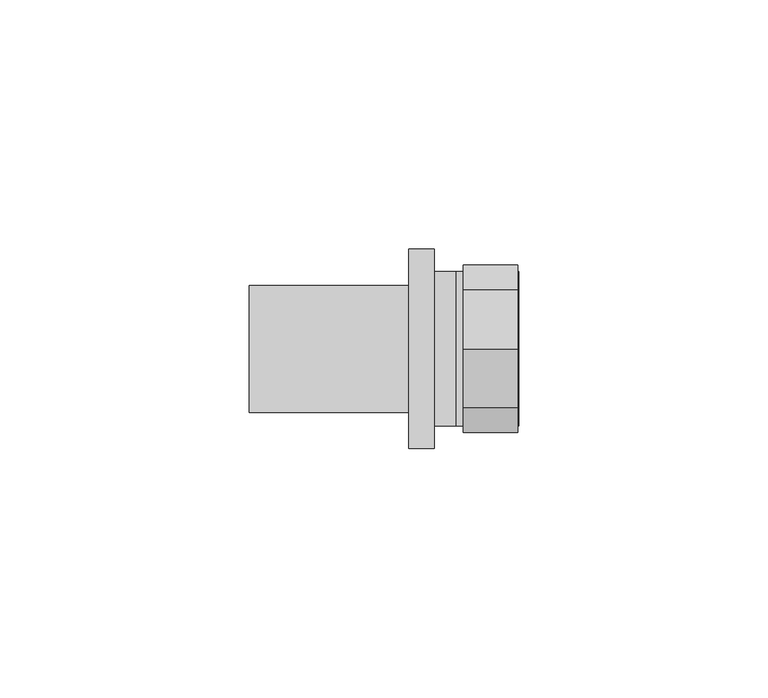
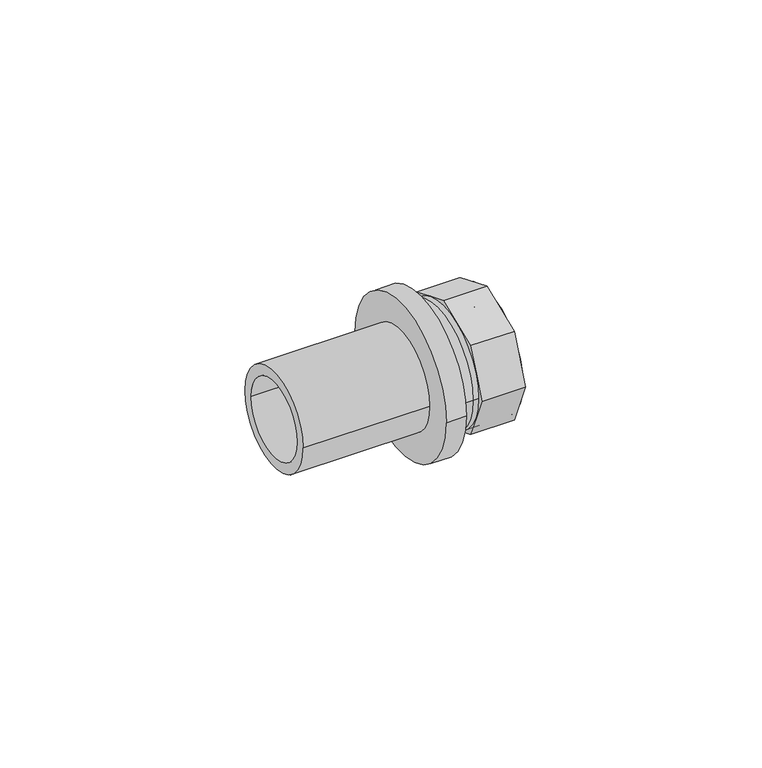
"""IFC4 building model written with IfcOpenShell, lengths in millimetres: pipe fitting geometry, REHAU_RAUTITAN_Adaptor_RX+, with internal thread : REHAU_RAUTITAN_Adaptor_RX+, with internal thread."""

from ifc_helpers import new_model, si_unit, point, frame, origin, origin_2d, place, context, project, spatial, polyline, circle_curve, trimmed, segment, composite_curve, outline, extrude, source, transform, mapped, element, save
from ifc_brep_helpers import plane_surface, cylinder_surface, revolved_surface, advanced_brep


def pipe_fitting_865653ef(model_context):
    return source(origin(), model_context, "Body", "SolidModel", [
        advanced_brep(
        [(5.5, -11.8631864, 11.8631864), (5.5, -16.7770791, 0.0), (5.5, -11.8631864, -11.8631864), (5.5, 0.0, -16.7770791), (5.5, 11.8631864, -11.8631864), (5.5, 16.7770791, 0.0), (5.5, 11.8631864, 11.8631864), (5.5, 0.0, 16.7770791), (5.5, -9.5, 0.0), (5.5, 9.5, 0.0), (-5.5, 13.1078182, 0.0), (-5.5, -13.1078182, 0.0), (-5.5, -9.5, 0.0), (-5.5, 9.5, 0.0), (-5.5, -11.8631864, 11.8631864), (-5.5, -5.9315932, 14.3201328), (-5.5, -14.3201328, 5.9315932), (-5.5, 0.0, 16.7770791), (-5.5, 5.9315932, 14.3201328), (-5.5, 11.8631864, 11.8631864), (-5.5, 14.3201328, 5.9315932), (-5.5, 16.7770791, 0.0), (-5.5, 14.3201328, -5.9315932), (-5.5, 15.5, 0.0), (-5.5, 11.8631864, -11.8631864), (-5.5, 5.9315932, -14.3201328), (-5.5, 0.0, -16.7770791), (-5.5, -5.9315932, -14.3201328), (-5.5, -11.8631864, -11.8631864), (-5.5, -14.3201328, -5.9315932), (-5.5, -16.7770791, 0.0), (-5.5, -15.5, 0.0), (-7.01, 15.5, 0.0), (-7.01, -15.5, 0.0), (-11.27, -15.5, 0.0), (-11.27, 15.5, 0.0), (-7.01, 13.3, 0.0), (-7.01, -13.3, 0.0), (-48.36, 10.0, 0.0), (-48.36, -10.0, 0.0), (-11.27, -10.0, 0.0), (-11.27, 10.0, 0.0), (-16.36, 12.725, 0.0), (-16.36, -12.725, 0.0), (-48.36, -12.725, 0.0), (-48.36, 12.725, 0.0), (-11.27, 20.0, 0.0), (-11.27, -20.0, 0.0), (-16.36, -20.0, 0.0), (-16.36, 20.0, 0.0)],
        [
            (0, 1),
            (1, 2),
            (2, 3),
            (3, 4),
            (4, 5),
            (5, 6),
            (6, 7),
            (7, 0),
            (8, 9, circle_curve(frame((5.5, 0.0, 0.0), z_axis=(-1.0, 0.0, 0.0), x_axis=(0.0, 1.0, 0.0)), 9.5)),
            (9, 8, circle_curve(frame((5.5, 0.0, 0.0), z_axis=(-1.0, 0.0, 0.0), x_axis=(0.0, 1.0, 0.0)), 9.5)),
            (10, 11, circle_curve(frame((-5.5, 0.0, 0.0), z_axis=(-1.0, 0.0, 0.0), x_axis=(0.0, -1.0, 0.0)), 13.1078182)),
            (11, 10, circle_curve(frame((-5.5, 0.0, 0.0), z_axis=(-1.0, 0.0, 0.0), x_axis=(0.0, 1.0, 0.0)), 13.1078182)),
            (12, 13, circle_curve(frame((-5.5, 0.0, 0.0), z_axis=(1.0, 0.0, 0.0), x_axis=(0.0, 1.0, 0.0)), 9.5)),
            (13, 12, circle_curve(frame((-5.5, 0.0, 0.0), z_axis=(1.0, 0.0, 0.0), x_axis=(0.0, 1.0, 0.0)), 9.5)),
            (14, 15),
            (15, 16, circle_curve(frame((-5.5, 0.0, 0.0), z_axis=(1.0, 0.0, 0.0), x_axis=(0.0, 1.0, 0.0)), 15.5)),
            (16, 14),
            (15, 17),
            (17, 18),
            (18, 15, circle_curve(frame((-5.5, 0.0, 0.0), z_axis=(1.0, 0.0, 0.0), x_axis=(0.0, 1.0, 0.0)), 15.5)),
            (18, 19),
            (19, 20),
            (20, 18, circle_curve(frame((-5.5, 0.0, 0.0), z_axis=(1.0, 0.0, 0.0), x_axis=(0.0, 1.0, 0.0)), 15.5)),
            (20, 21),
            (21, 22),
            (22, 23, circle_curve(frame((-5.5, 0.0, 0.0), z_axis=(1.0, 0.0, 0.0), x_axis=(0.0, -1.0, 0.0)), 15.5)),
            (23, 20, circle_curve(frame((-5.5, 0.0, 0.0), z_axis=(1.0, 0.0, 0.0), x_axis=(0.0, 1.0, 0.0)), 15.5)),
            (22, 24),
            (24, 25),
            (25, 22, circle_curve(frame((-5.5, 0.0, 0.0), z_axis=(1.0, 0.0, 0.0), x_axis=(0.0, -1.0, 0.0)), 15.5)),
            (25, 26),
            (26, 27),
            (27, 25, circle_curve(frame((-5.5, 0.0, 0.0), z_axis=(1.0, 0.0, 0.0), x_axis=(0.0, -1.0, 0.0)), 15.5)),
            (27, 28),
            (28, 29),
            (29, 27, circle_curve(frame((-5.5, 0.0, 0.0), z_axis=(1.0, 0.0, 0.0), x_axis=(0.0, -1.0, 0.0)), 15.5)),
            (29, 30),
            (30, 16),
            (16, 31, circle_curve(frame((-5.5, 0.0, 0.0), z_axis=(1.0, 0.0, 0.0), x_axis=(0.0, 1.0, 0.0)), 15.5)),
            (31, 29, circle_curve(frame((-5.5, 0.0, 0.0), z_axis=(1.0, 0.0, 0.0), x_axis=(0.0, -1.0, 0.0)), 15.5)),
            (8, 12),
            (13, 9),
            (0, 14),
            (30, 1),
            (28, 2),
            (26, 3),
            (24, 4),
            (21, 5),
            (19, 6),
            (17, 7),
            (32, 33, circle_curve(frame((-7.01, 0.0, 0.0), z_axis=(-1.0, 0.0, 0.0), x_axis=(0.0, -1.0, 0.0)), 15.5)),
            (33, 34),
            (34, 35, circle_curve(frame((-11.27, 0.0, 0.0), z_axis=(1.0, 0.0, 0.0), x_axis=(0.0, -1.0, 0.0)), 15.5)),
            (35, 32),
            (32, 23),
            (31, 33),
            (36, 37, circle_curve(frame((-7.01, 0.0, 0.0), z_axis=(-1.0, 0.0, 0.0), x_axis=(0.0, -1.0, 0.0)), 13.3)),
            (37, 11),
            (10, 36),
            (38, 39, circle_curve(frame((-48.36, 0.0, 0.0), z_axis=(-1.0, 0.0, 0.0), x_axis=(0.0, -1.0, 0.0)), 10.0)),
            (39, 40),
            (40, 41, circle_curve(frame((-11.27, 0.0, 0.0), z_axis=(1.0, 0.0, 0.0), x_axis=(0.0, -1.0, 0.0)), 10.0)),
            (41, 38),
            (42, 43, circle_curve(frame((-16.36, 0.0, 0.0), z_axis=(-1.0, 0.0, 0.0), x_axis=(0.0, -1.0, 0.0)), 12.725)),
            (43, 44),
            (44, 45, circle_curve(frame((-48.36, 0.0, 0.0), z_axis=(1.0, 0.0, 0.0), x_axis=(0.0, -1.0, 0.0)), 12.725)),
            (45, 42),
            (46, 47, circle_curve(frame((-11.27, 0.0, 0.0), z_axis=(-1.0, 0.0, 0.0), x_axis=(0.0, -1.0, 0.0)), 20.0)),
            (47, 48),
            (48, 49, circle_curve(frame((-16.36, 0.0, 0.0), z_axis=(1.0, 0.0, 0.0), x_axis=(0.0, -1.0, 0.0)), 20.0)),
            (49, 46),
            (46, 47, circle_curve(frame((-11.27, 0.0, 0.0), z_axis=(1.0, 0.0, 0.0), x_axis=(0.0, 1.0, 0.0)), 20.0)),
            (34, 35, circle_curve(frame((-11.27, 0.0, 0.0), z_axis=(-1.0, 0.0, 0.0), x_axis=(0.0, 1.0, 0.0)), 15.5)),
            (33, 32, circle_curve(frame((-7.01, 0.0, 0.0), z_axis=(-1.0, 0.0, 0.0), x_axis=(0.0, 1.0, 0.0)), 15.5)),
            (37, 36, circle_curve(frame((-7.01, 0.0, 0.0), z_axis=(-1.0, 0.0, 0.0), x_axis=(0.0, 1.0, 0.0)), 13.3)),
            (39, 38, circle_curve(frame((-48.36, 0.0, 0.0), z_axis=(-1.0, 0.0, 0.0), x_axis=(0.0, 1.0, 0.0)), 10.0)),
            (41, 40, circle_curve(frame((-11.27, 0.0, 0.0), z_axis=(1.0, 0.0, 0.0), x_axis=(0.0, 1.0, 0.0)), 10.0)),
            (44, 45, circle_curve(frame((-48.36, 0.0, 0.0), z_axis=(-1.0, 0.0, 0.0), x_axis=(0.0, 1.0, 0.0)), 12.725)),
            (43, 42, circle_curve(frame((-16.36, 0.0, 0.0), z_axis=(-1.0, 0.0, 0.0), x_axis=(0.0, 1.0, 0.0)), 12.725)),
            (48, 49, circle_curve(frame((-16.36, 0.0, 0.0), z_axis=(-1.0, 0.0, 0.0), x_axis=(0.0, 1.0, 0.0)), 20.0)),
            (36, 41),
            (40, 37),
        ],
        [
            plane_surface(frame((5.5, 9.5, 0.0), z_axis=(1.0, 0.0, 0.0), x_axis=(0.0, 0.0, -1.0))),
            plane_surface(frame((-5.5, 9.5, 0.0), z_axis=(-1.0, 0.0, 0.0), x_axis=(0.0, 0.0, 1.0))),
            revolved_surface(polyline([(-5.5, 9.5, 0.0), (5.5, 9.5, 0.0)]), (-5.5, 0.0, 0.0), (-1.0, 0.0, 0.0)),
            plane_surface(frame((5.5, -11.8631864, 11.8631864), z_axis=(0.0, -0.9238795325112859, 0.382683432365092), x_axis=(-1.0, 0.0, 0.0))),
            plane_surface(frame((5.5, -16.7770791, 0.0), z_axis=(0.0, -0.9238795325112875, -0.38268343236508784), x_axis=(-1.0, 0.0, 0.0))),
            plane_surface(frame((5.5, -11.8631864, -11.8631864), z_axis=(0.0, -0.38268343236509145, -0.9238795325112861), x_axis=(-1.0, 0.0, 0.0))),
            plane_surface(frame((5.5, 0.0, -16.7770791), z_axis=(0.0, 0.38268343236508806, -0.9238795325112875), x_axis=(-1.0, 0.0, 0.0))),
            plane_surface(frame((5.5, 11.8631864, -11.8631864), z_axis=(0.0, 0.9238795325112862, -0.3826834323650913), x_axis=(-1.0, 0.0, 0.0))),
            plane_surface(frame((5.5, 16.7770791, 0.0), z_axis=(0.0, 0.9238795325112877, 0.38268343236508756), x_axis=(-1.0, 0.0, 0.0))),
            plane_surface(frame((5.5, 11.8631864, 11.8631864), z_axis=(0.0, 0.38268343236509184, 0.923879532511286), x_axis=(-1.0, 0.0, 0.0))),
            plane_surface(frame((5.5, 0.0, 16.7770791), z_axis=(0.0, -0.3826834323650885, 0.9238795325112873), x_axis=(-1.0, 0.0, 0.0))),
            cylinder_surface(frame((0.0, 0.0, 0.0), z_axis=(1.0, 0.0, 0.0), x_axis=(0.0, -1.0, 0.0)), 15.5),
            revolved_surface(polyline([(-5.36, -13.09, 0.0), (-7.01, -13.3, 0.0)]), (0.0, 0.0, 0.0), (1.0, 0.0, 0.0)),
            revolved_surface(polyline([(-11.27, -10.0, 0.0), (-48.36, -10.0, 0.0)]), (0.0, 0.0, 0.0), (1.0, 0.0, 0.0)),
            cylinder_surface(frame((0.0, 0.0, 0.0), z_axis=(1.0, 0.0, 0.0), x_axis=(0.0, -1.0, 0.0)), 12.725),
            cylinder_surface(frame((0.0, 0.0, 0.0), z_axis=(1.0, 0.0, 0.0), x_axis=(0.0, -1.0, 0.0)), 20.0),
            plane_surface(frame((-11.27, 0.0, 0.0), z_axis=(1.0, 0.0, 0.0), x_axis=(0.0, 1.0, 0.0))),
            cylinder_surface(frame((0.0, 0.0, 0.0), z_axis=(1.0, 0.0, 0.0), x_axis=(0.0, 1.0, 0.0)), 15.5),
            revolved_surface(polyline([(-5.36, 13.09, 0.0), (-7.01, 13.3, 0.0)]), (0.0, 0.0, 0.0), (1.0, 0.0, 0.0)),
            revolved_surface(polyline([(-11.27, 10.0, 0.0), (-48.36, 10.0, 0.0)]), (0.0, 0.0, 0.0), (1.0, 0.0, 0.0)),
            plane_surface(frame((-48.36, 0.0, 0.0), z_axis=(-1.0, 0.0, 0.0), x_axis=(0.0, 1.0, 0.0))),
            cylinder_surface(frame((0.0, 0.0, 0.0), z_axis=(1.0, 0.0, 0.0), x_axis=(0.0, 1.0, 0.0)), 12.725),
            plane_surface(frame((-16.36, 0.0, 0.0), z_axis=(-1.0, 0.0, 0.0), x_axis=(0.0, 1.0, 0.0))),
            cylinder_surface(frame((0.0, 0.0, 0.0), z_axis=(1.0, 0.0, 0.0), x_axis=(0.0, 1.0, 0.0)), 20.0),
            revolved_surface(polyline([(-7.01, -13.3, 0.0), (-11.27, -10.0, 0.0)]), (0.0, 0.0, 0.0), (1.0, 0.0, 0.0)),
            revolved_surface(polyline([(-7.01, 13.3, 0.0), (-11.27, 10.0, 0.0)]), (0.0, 0.0, 0.0), (1.0, 0.0, 0.0)),
        ],
        [
            (0, [[1, 2, 3, 4, 5, 6, 7, 8], [9, 10]]),
            (1, [[11, 12], [13, 14]]),
            (1, [[15, 16, 17]]),
            (1, [[18, 19, 20]]),
            (1, [[21, 22, 23]]),
            (1, [[24, 25, 26, 27]]),
            (1, [[28, 29, 30]]),
            (1, [[31, 32, 33]]),
            (1, [[34, 35, 36]]),
            (1, [[37, 38, 39, 40]]),
            (2, [[-9, 41, -14, 42]]),
            (2, [[-10, -42, -13, -41]]),
            (3, [[-1, 43, -17, -38, 44]]),
            (4, [[-2, -44, -37, -35, 45]]),
            (5, [[-3, -45, -34, -32, 46]]),
            (6, [[-4, -46, -31, -29, 47]]),
            (7, [[-5, -47, -28, -25, 48]]),
            (8, [[-6, -48, -24, -22, 49]]),
            (9, [[-7, -49, -21, -19, 50]]),
            (10, [[-8, -50, -18, -15, -43]]),
            (11, [[51, 52, 53, 54]]),
            (11, [[-51, 55, -26, -30, -33, -36, -40, 56]]),
            (12, [[57, 58, -11, 59]]),
            (13, [[60, 61, 62, 63]]),
            (14, [[64, 65, 66, 67]]),
            (15, [[68, 69, 70, 71]]),
            (16, [[-68, 72], [-53, 73]]),
            (17, [[-52, 74, -54, -73]]),
            (17, [[-56, -39, -16, -20, -23, -27, -55, -74]]),
            (18, [[-58, 75, -59, -12]]),
            (19, [[-61, 76, -63, 77]]),
            (20, [[-66, 78], [-60, -76]]),
            (21, [[-65, 79, -67, -78]]),
            (22, [[-70, 80], [-64, -79]]),
            (23, [[-69, -72, -71, -80]]),
            (24, [[-57, 81, -62, 82]]),
            (25, [[-75, -82, -77, -81]]),
        ],
    ),
        extrude(outline(composite_curve([segment(trimmed(circle_curve(origin_2d(), 15.5), [point((-15.5, 0.0))], [point((15.5, 0.0))], False, "CARTESIAN"), True, "CONTINUOUS"), segment(trimmed(circle_curve(origin_2d(), 15.5), [point((15.5, 0.0))], [point((-15.5, 0.0))], False, "CARTESIAN"), True, "CONTINUOUS")], self_intersect=False), holes=[composite_curve([segment(trimmed(circle_curve(origin_2d(), 13.09), [point((-13.09, 0.0))], [point((13.09, 0.0))], True, "CARTESIAN"), True, "CONTINUOUS"), segment(trimmed(circle_curve(origin_2d(), 13.09), [point((13.09, 0.0))], [point((-13.09, 0.0))], True, "CARTESIAN"), True, "CONTINUOUS")], self_intersect=False)]), frame((-5.5, 0.0, 0.0), z_axis=(1.0, 0.0, 0.0), x_axis=(0.0, 1.0, 0.0)), (0.0, 0.0, 1.0), 11.14),
    ])


if __name__ == "__main__":
    model = new_model("IFC4")
    model_context = context("Model", 3, world=origin())
    ifc_project = project(units=[si_unit("LENGTHUNIT", "METRE", prefix="MILLI")], contexts=[model_context])
    site = spatial("IfcSite", under=ifc_project)
    building = spatial("IfcBuilding", under=site)
    placement = place(None, origin())
    pipe_fitting_shape = pipe_fitting_865653ef(model_context)
    element("IfcPipeFitting", 1, ObjectType="REHAU_RAUTITAN_Adaptor_RX+, with internal thread : REHAU_RAUTITAN_Adaptor_RX+, with internal thread", at=placement, inside=building, context=model_context, shape_type="MappedRepresentation", body=[
        mapped(pipe_fitting_shape, transform((0.0, 0.0, 0.0), x_axis=(1.0, 0.0, 0.0), y_axis=(0.0, 1.0, 0.0), z_axis=(0.0, 0.0, 1.0))),
    ])
    save(model, "model.ifc")
